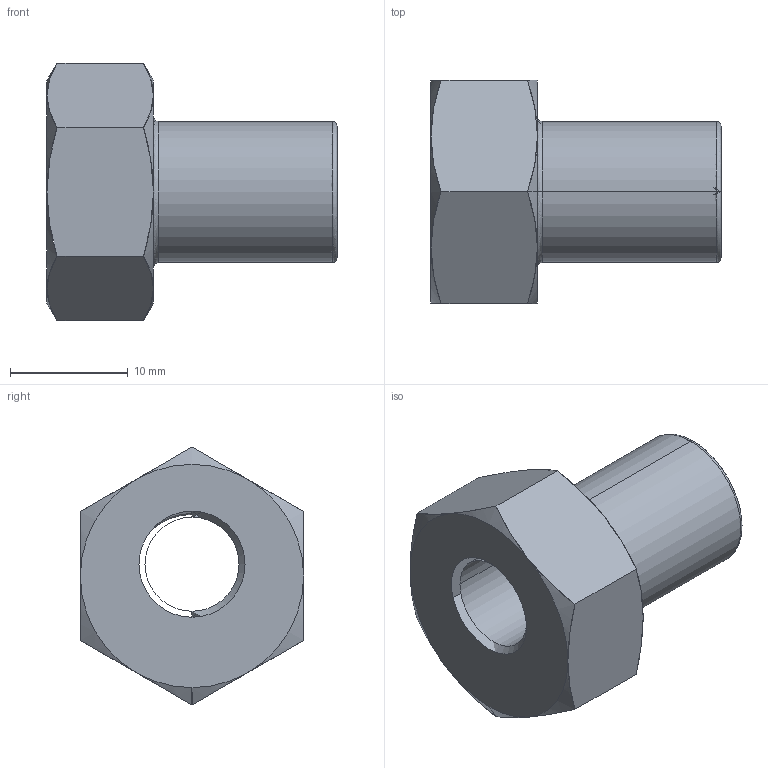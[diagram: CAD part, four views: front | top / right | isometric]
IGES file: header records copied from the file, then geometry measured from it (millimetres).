
Start section: 3D InterOp IGES (v. 2019 1.0.2), Spatial Corp. Copyright (c) 1999-2017.
Global section: file name: BX3SSM.igs; native system: Spatial Corp.; preprocessor: 3D InterOp GENERIC/IGES 3.0; author: Noname; organization: Noname; date: 20200930.105802; units: millimetre
Bounding box: 24.68 x 19 x 21.94 mm (x, y, z)
Surface area: 2393.5 mm2 (no closed solid volume)
Topology: 0 solids, 0 shells, 35 faces, 208 edges, 206 vertices
Faces by surface type: revolution 26, extrusion 9
